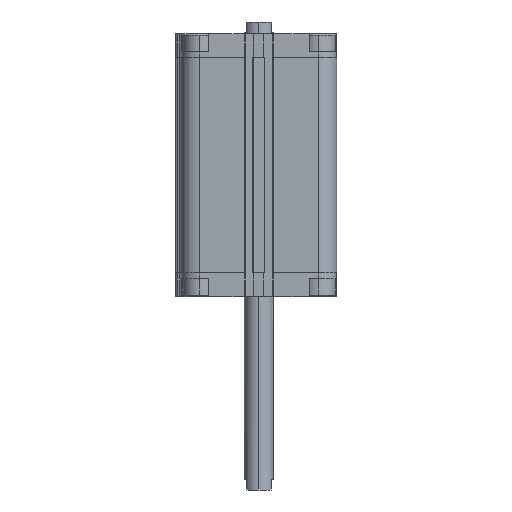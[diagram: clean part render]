
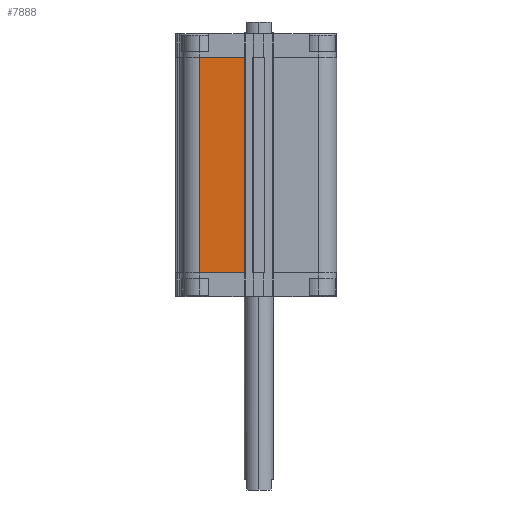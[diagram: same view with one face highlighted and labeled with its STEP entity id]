
A CAD part, left-side view. The second image highlights one B-rep face of the part: STEP entity #7888.
In plain terms, the highlighted planar face has unit normal (-1, 0, 0).
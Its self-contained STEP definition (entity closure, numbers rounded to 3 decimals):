
#504 = DIRECTION ( 'NONE',  ( 0., 0., 1. ) ) ;
#1545 = VECTOR ( 'NONE', #16411, 1000. ) ;
#1686 = CARTESIAN_POINT ( 'NONE',  ( -53.5, 9.95, -164.5 ) ) ;
#2004 = VECTOR ( 'NONE', #504, 1000. ) ;
#2370 = AXIS2_PLACEMENT_3D ( 'NONE', #16905, #15176, #8514 ) ;
#3701 = LINE ( 'NONE', #18643, #2004 ) ;
#3757 = DIRECTION ( 'NONE',  ( 0., -1., 0. ) ) ;
#3778 = PLANE ( 'NONE',  #2370 ) ;
#4137 = CARTESIAN_POINT ( 'NONE',  ( -53.5, 41., -164.5 ) ) ;
#4240 = ORIENTED_EDGE ( 'NONE', *, *, #13966, .T. ) ;
#4442 = VERTEX_POINT ( 'NONE', #9852 ) ;
#5049 = VERTEX_POINT ( 'NONE', #15310 ) ;
#6274 = EDGE_CURVE ( 'NONE', #9170, #4442, #3701, .T. ) ;
#6605 = VECTOR ( 'NONE', #13337, 1000. ) ;
#6610 = LINE ( 'NONE', #19626, #1545 ) ;
#6981 = LINE ( 'NONE', #18591, #6605 ) ;
#7195 = CARTESIAN_POINT ( 'NONE',  ( -53.5, 41., -164.5 ) ) ;
#7888 = ADVANCED_FACE ( 'NONE', ( #13459 ), #3778, .T. ) ;
#8449 = ORIENTED_EDGE ( 'NONE', *, *, #16606, .F. ) ;
#8514 = DIRECTION ( 'NONE',  ( 0., -1., 0. ) ) ;
#8876 = VERTEX_POINT ( 'NONE', #1686 ) ;
#9170 = VERTEX_POINT ( 'NONE', #4137 ) ;
#9468 = EDGE_CURVE ( 'NONE', #9170, #8876, #18800, .T. ) ;
#9852 = CARTESIAN_POINT ( 'NONE',  ( -53.5, 41., -16.5 ) ) ;
#10205 = ORIENTED_EDGE ( 'NONE', *, *, #9468, .T. ) ;
#10756 = EDGE_LOOP ( 'NONE', ( #8449, #20979, #10205, #4240 ) ) ;
#12349 = VECTOR ( 'NONE', #3757, 1000. ) ;
#13337 = DIRECTION ( 'NONE',  ( 0., -1., 0. ) ) ;
#13459 = FACE_OUTER_BOUND ( 'NONE', #10756, .T. ) ;
#13966 = EDGE_CURVE ( 'NONE', #8876, #5049, #6610, .T. ) ;
#15176 = DIRECTION ( 'NONE',  ( -1., 0., 0. ) ) ;
#15310 = CARTESIAN_POINT ( 'NONE',  ( -53.5, 9.95, -16.5 ) ) ;
#16411 = DIRECTION ( 'NONE',  ( 0., 0., 1. ) ) ;
#16606 = EDGE_CURVE ( 'NONE', #4442, #5049, #6981, .T. ) ;
#16905 = CARTESIAN_POINT ( 'NONE',  ( -53.5, 41., -164.5 ) ) ;
#18591 = CARTESIAN_POINT ( 'NONE',  ( -53.5, 41., -16.5 ) ) ;
#18643 = CARTESIAN_POINT ( 'NONE',  ( -53.5, 41., -164.5 ) ) ;
#18800 = LINE ( 'NONE', #7195, #12349 ) ;
#19626 = CARTESIAN_POINT ( 'NONE',  ( -53.5, 9.95, -164.5 ) ) ;
#20979 = ORIENTED_EDGE ( 'NONE', *, *, #6274, .F. ) ;
